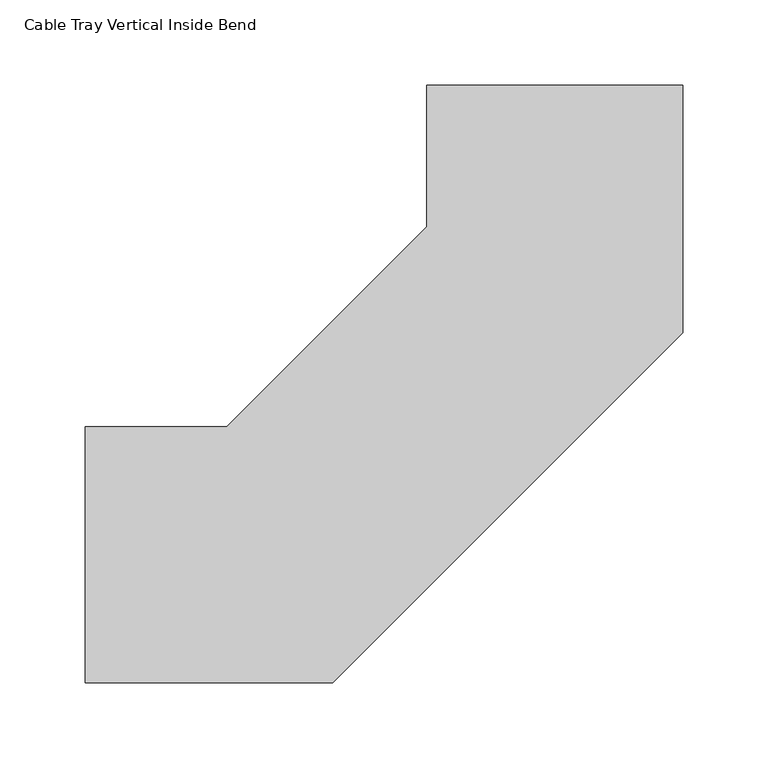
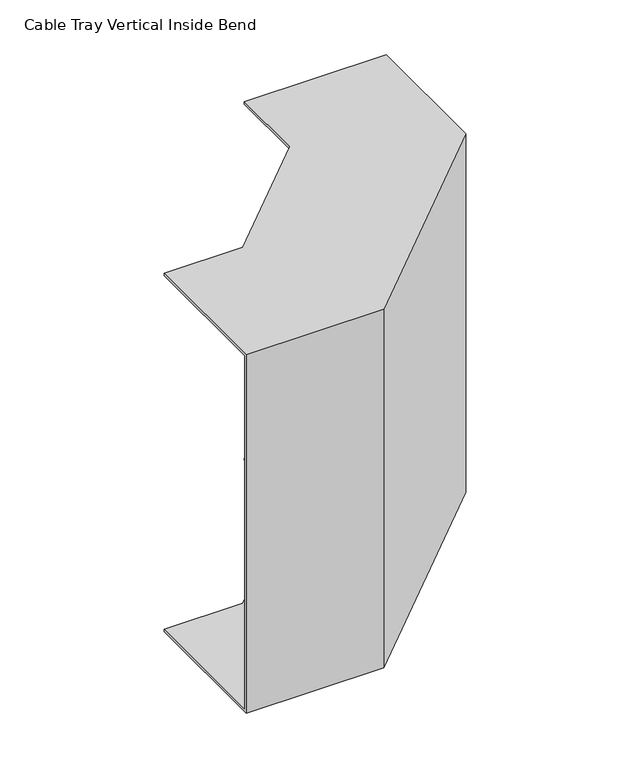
"""IFC4 building model written with IfcOpenShell, lengths in millimetres: cable carrier fitting geometry, Cable Tray Vertical Inside Bend : ELEC_ELV_TKG_N2402."""

import ifcopenshell
import ifcopenshell.guid

model = None  # the IFC model being written
_history = None  # IfcOwnerHistory: only IFC2X3 demands one
_inside = {}  # id of a spatial element -> (the spatial element, [elements in it])
_under = {}  # id of a project, library or spatial element -> (it, [spatial elements below it])
_declared = {}  # id of a project -> (the project, [libraries it declares])
_typed = {}  # id of a type object -> (the type object, [elements of that type])
_made_of = {}  # id of a material, layer set ... -> (it, [elements and type objects made of it])


def new_model(schema):
    """Start an empty IFC model of exactly this schema.

    Asked for "IFC4X3", IfcOpenShell would pick the latest addendum, in which some entities
    have other attributes; the version numbers below select the first issue.
    IFC2X3 requires an IfcOwnerHistory on every rooted entity: one is made here for all.
    """
    global model, _history
    if schema == "IFC4X3":
        model = ifcopenshell.file(schema_version=(4, 3, 0, 0))
    else:
        model = ifcopenshell.file(schema=schema)
    _inside.clear()
    _under.clear()
    _declared.clear()
    _typed.clear()
    _made_of.clear()
    _history = None
    if model.schema == "IFC2X3":
        org = make("IfcOrganization", Name="unknown")
        user = make(
            "IfcPersonAndOrganization",
            ThePerson=make("IfcPerson", FamilyName="unknown"),
            TheOrganization=org,
        )
        app = make(
            "IfcApplication",
            ApplicationDeveloper=org,
            Version="unknown",
            ApplicationFullName="unknown",
            ApplicationIdentifier="unknown",
        )
        _history = make(
            "IfcOwnerHistory",
            OwningUser=user,
            OwningApplication=app,
            ChangeAction="ADDED",
            CreationDate=0,
        )
    return model


def make(cls, **values):
    """One entity of the class cls with the attributes given. An attribute that is None is left unset."""
    return model.create_entity(
        cls, **{name: value for name, value in values.items() if value is not None}
    )


def rooted(cls, **values):
    """An entity with a GlobalId (a new one), such as an element, a storey or a relation."""
    return make(cls, GlobalId=ifcopenshell.guid.new(), OwnerHistory=_history, **values)


def si_unit(unit_type, name, prefix=None):
    """IfcSIUnit, for example si_unit("LENGTHUNIT", "METRE", prefix="MILLI")."""
    return make("IfcSIUnit", UnitType=unit_type, Prefix=prefix, Name=name)


def assignment(units):
    """IfcUnitAssignment: the units of a project."""
    return None if units is None else make("IfcUnitAssignment", Units=units)


def point(xyz):
    """IfcCartesianPoint."""
    return None if xyz is None else make("IfcCartesianPoint", Coordinates=xyz)


def direction(xyz):
    """IfcDirection."""
    return None if xyz is None else make("IfcDirection", DirectionRatios=xyz)


def frame(location, z_axis=None, x_axis=None):
    """IfcAxis2Placement3D, a coordinate frame: its origin and axes. An axis left out is left unset."""
    return make(
        "IfcAxis2Placement3D",
        Location=point(location),
        Axis=direction(z_axis),
        RefDirection=direction(x_axis),
    )


def origin():
    """The frame at (0, 0, 0) with its axes left unset."""
    return frame((0.0, 0.0, 0.0))


def place(relative_to, where):
    """IfcLocalPlacement: puts the frame where relative to a parent placement (None: the world)."""
    return make(
        "IfcLocalPlacement", PlacementRelTo=relative_to, RelativePlacement=where
    )


def context(
    kind, dimensions, precision=None, world=None, true_north=None, identifier=None
):
    """IfcGeometricRepresentationContext, for example the 3D "Model" context."""
    return make(
        "IfcGeometricRepresentationContext",
        ContextIdentifier=identifier,
        ContextType=kind,
        CoordinateSpaceDimension=dimensions,
        Precision=precision,
        WorldCoordinateSystem=world,
        TrueNorth=true_north,
    )


def project(units=None, contexts=None):
    """IfcProject with its units and contexts."""
    return rooted(
        "IfcProject",
        Name="project",
        RepresentationContexts=contexts,
        UnitsInContext=assignment(units),
    )


def spatial(cls, under=None, at=None, **own):
    """A site, building, storey or space (cls), placed at a placement, below another one or the project."""
    s = rooted(cls, ObjectPlacement=at, **own)
    if under is not None:
        _under.setdefault(under.id(), (under, []))[1].append(s)
    return s


def faces_of(points, faces, orient=None, outer=None):
    """IfcFace entities. A face is a list of loops; a loop is a list of indices into points, from 0.

    orient and outer hold one flag for each loop. By default every Orientation is true, the
    first loop of a face is its IfcFaceOuterBound and the others are IfcFaceBound.
    """
    made = []
    for i, loops in enumerate(faces):
        bounds = []
        for j, loop in enumerate(loops):
            is_outer = j == 0 if outer is None else outer[i][j]
            bounds.append(
                make(
                    "IfcFaceOuterBound" if is_outer else "IfcFaceBound",
                    Bound=make("IfcPolyLoop", Polygon=[points[k] for k in loop]),
                    Orientation=True if orient is None else orient[i][j],
                )
            )
        made.append(make("IfcFace", Bounds=bounds))
    return made


def faceted_brep(points, faces, orient=None, outer=None, voids=None):
    """IfcFacetedBrep: a solid bounded by flat faces; with voids (closed shells), ...WithVoids."""
    shared = [point(p) for p in points]
    hull = make("IfcClosedShell", CfsFaces=faces_of(shared, faces, orient, outer))
    if voids is None:
        return make("IfcFacetedBrep", Outer=hull)
    return make(
        "IfcFacetedBrepWithVoids",
        Outer=hull,
        Voids=[
            make(cls, CfsFaces=faces_of(shared, fs, o, b)) for cls, fs, o, b in voids
        ],
    )


def shape(context_of_items, identifier, shape_type, items):
    """IfcShapeRepresentation: the items that make up one representation, for example the "Body"."""
    return make(
        "IfcShapeRepresentation",
        ContextOfItems=context_of_items,
        RepresentationIdentifier=identifier,
        RepresentationType=shape_type,
        Items=items,
    )


def source(mapping_origin, context_of_items, identifier, shape_type, items):
    """IfcRepresentationMap: a shape defined once, which mapped items show again and again."""
    return make(
        "IfcRepresentationMap",
        MappingOrigin=mapping_origin,
        MappedRepresentation=shape(context_of_items, identifier, shape_type, items),
    )


def transform(
    local_origin,
    x_axis=None,
    y_axis=None,
    z_axis=None,
    scale=None,
    scale2=None,
    scale3=None,
    uniform=True,
):
    """IfcCartesianTransformationOperator3D, or its non-uniform kind. x_axis, y_axis, z_axis: its Axis1, 2, 3."""
    if uniform:
        return make(
            "IfcCartesianTransformationOperator3D",
            Axis1=direction(x_axis),
            Axis2=direction(y_axis),
            LocalOrigin=point(local_origin),
            Scale=scale,
            Axis3=direction(z_axis),
        )
    return make(
        "IfcCartesianTransformationOperator3DnonUniform",
        Axis1=direction(x_axis),
        Axis2=direction(y_axis),
        LocalOrigin=point(local_origin),
        Scale=scale,
        Axis3=direction(z_axis),
        Scale2=scale2,
        Scale3=scale3,
    )


def mapped(mapping_source, mapping_target):
    """IfcMappedItem: shows the shape of a source again, moved by a transform."""
    return make(
        "IfcMappedItem", MappingSource=mapping_source, MappingTarget=mapping_target
    )


def made_of(thing, what):
    """Note that an element or type object is made of a material, layer set ...; save() writes the relation."""
    if what is not None:
        _made_of.setdefault(what.id(), (what, []))[1].append(thing)
    return thing


def element(
    cls,
    number,
    at=None,
    inside=None,
    cuts=None,
    type_object=None,
    material=None,
    context=None,
    identifier="Body",
    shape_type=None,
    held_by="IfcProductDefinitionShape",
    body=None,
    shapes=None,
    **own,
):
    """One element of the class cls, such as IfcWall. Its Tag is "e" and its number.

    at: its placement. inside: the storey or other place that contains it. cuts: it is an
    opening in that element (IfcRelVoidsElement). A single representation is given by context,
    identifier, shape_type and body (its items); several are given by shapes. held_by: the class
    of the entity that holds the representations. save() writes the other relations.
    """
    e = rooted(cls, Tag="e%d" % number, ObjectPlacement=at, **own)
    if body is not None:
        shapes = [shape(context, identifier, shape_type, body)]
    if shapes is not None:
        e.Representation = make(held_by, Representations=shapes)
    if inside is not None:
        _inside.setdefault(inside.id(), (inside, []))[1].append(e)
    if cuts is not None:
        rooted(
            "IfcRelVoidsElement", RelatingBuildingElement=cuts, RelatedOpeningElement=e
        )
    if type_object is not None:
        _typed.setdefault(type_object.id(), (type_object, []))[1].append(e)
    return made_of(e, material)


def aggregate(whole, parts):
    """IfcRelAggregates: a whole, such as a stair, and the parts it consists of."""
    return rooted("IfcRelAggregates", RelatingObject=whole, RelatedObjects=parts)


def save(model, path):
    """Write the relations noted so far, then the file.

    IfcRelAggregates (storeys below a building ...), IfcRelContainedInSpatialStructure (elements
    in a storey), IfcRelDefinesByType, IfcRelAssociatesMaterial and IfcRelDeclares: one each for
    every whole, place, type object, material and project.
    """
    for whole, parts in _under.values():
        aggregate(whole, parts)
    for where, things in _inside.values():
        rooted(
            "IfcRelContainedInSpatialStructure",
            RelatedElements=things,
            RelatingStructure=where,
        )
    for kind, things in _typed.values():
        rooted("IfcRelDefinesByType", RelatedObjects=things, RelatingType=kind)
    for what, things in _made_of.values():
        rooted("IfcRelAssociatesMaterial", RelatedObjects=things, RelatingMaterial=what)
    for by, libraries in _declared.values():
        rooted("IfcRelDeclares", RelatingContext=by, RelatedDefinitions=libraries)
    model.write(path)


def cable_tray_vertical_inside_bend_dbbfe391(model_context):
    return source(origin(), model_context, "Body", "Brep", [
        faceted_brep([(-275.0, 75.0, 200.0), (-275.0, 75.0, 197.46), (-275.0, -72.46, 197.46), (-275.0, -72.46, -197.46), (-275.0, 75.0, -197.46), (-275.0, 75.0, -200.0), (-275.0, -75.0, -200.0), (-275.0, -75.0, 200.0), (-75.0, 275.0, 200.0), (75.0, 275.0, 200.0), (75.0, 275.0, -200.0), (-75.0, 275.0, -200.0), (-75.0, 275.0, -197.46), (72.46, 275.0, -197.46), (72.46, 275.0, 197.46), (-75.0, 275.0, 197.46), (-192.1572875, 75.0, 200.0), (-192.1572875, 75.0, 197.46), (-75.0, 192.1572875, 197.46), (72.46, 131.0773556, 197.46), (-131.0773556, -72.46, 197.46), (-131.0773556, -72.46, -197.46), (72.46, 131.0773556, -197.46), (-75.0, 192.1572875, -197.46), (-192.1572875, 75.0, -197.46), (-192.1572875, 75.0, -200.0), (-75.0, 192.1572875, -200.0), (75.0, 130.0252532, -200.0), (-130.0252532, -75.0, -200.0), (-130.0252532, -75.0, 200.0), (75.0, 130.0252532, 200.0), (-75.0, 192.1572875, 200.0)], [[[0, 1, 2, 3, 4, 5, 6, 7]], [[8, 9, 10, 11, 12, 13, 14, 15]], [[1, 0, 16, 17]], [[2, 1, 17, 18, 15, 14, 19, 20]], [[3, 2, 20, 21]], [[4, 3, 21, 22, 13, 12, 23, 24]], [[5, 4, 24, 25]], [[6, 5, 25, 26, 11, 10, 27, 28]], [[7, 6, 28, 29]], [[0, 7, 29, 30, 9, 8, 31, 16]], [[17, 16, 31, 18]], [[21, 20, 19, 22]], [[25, 24, 23, 26]], [[29, 28, 27, 30]], [[18, 31, 8, 15]], [[22, 19, 14, 13]], [[26, 23, 12, 11]], [[30, 27, 10, 9]]]),
    ])


if __name__ == "__main__":
    model = new_model("IFC4")
    model_context = context("Model", 3, world=origin())
    ifc_project = project(units=[si_unit("LENGTHUNIT", "METRE", prefix="MILLI")], contexts=[model_context])
    site = spatial("IfcSite", under=ifc_project)
    building = spatial("IfcBuilding", under=site)
    placement = place(None, origin())
    cable_tray_vertical_inside_bend_shape = cable_tray_vertical_inside_bend_dbbfe391(model_context)
    element("IfcCableCarrierFitting", 1, ObjectType="Cable Tray Vertical Inside Bend : ELEC_ELV_TKG_N2402", at=placement, inside=building, context=model_context, shape_type="MappedRepresentation", body=[
        mapped(cable_tray_vertical_inside_bend_shape, transform((0.0, 0.0, 0.0), x_axis=(1.0, 0.0, 0.0), y_axis=(0.0, 1.0, 0.0), z_axis=(0.0, 0.0, 1.0))),
    ])
    save(model, "model.ifc")
